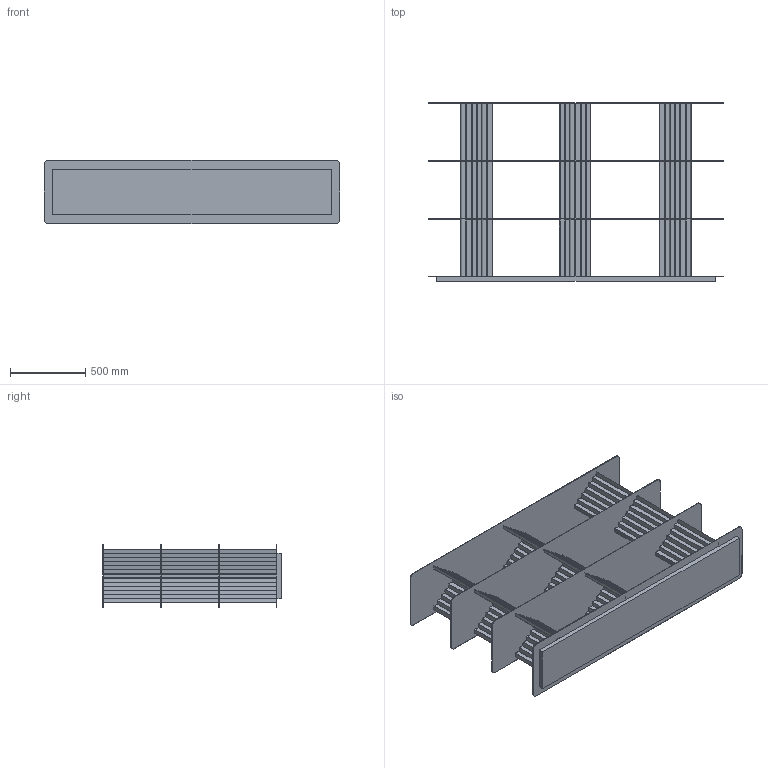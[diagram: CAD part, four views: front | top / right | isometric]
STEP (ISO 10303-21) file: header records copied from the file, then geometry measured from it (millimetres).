
FILE_DESCRIPTION (( 'STEP AP203' ), '1' );
FILE_NAME ('PLEC SHELVES M 3 NIVELES.STEP', '2025-05-08T10:03:14', ( '' ), ( '' ), 'SwSTEP 2.0', 'SolidWorks 2020', '' );
FILE_SCHEMA (( 'CONFIG_CONTROL_DESIGN' ));
Length unit declared in the file: millimetre
Products named in the file (1): PLEC SHELVES M 3 NIVELES
Bounding box: 1961 x 1187 x 420 mm (x, y, z)
Volume: 36798414.9 mm3; surface area: 12867657.4 mm2
Topology: 14 solids, 14 shells, 532 faces, 1512 edges, 1008 vertices
Faces by surface type: plane 516, cylinder 16
Entity records: 16999 total; most frequent: CARTESIAN_POINT 3053, ORIENTED_EDGE 3024, DIRECTION 2610, EDGE_CURVE 1512, LINE 1480, VECTOR 1480, VERTEX_POINT 1008, AXIS2_PLACEMENT_3D 565
